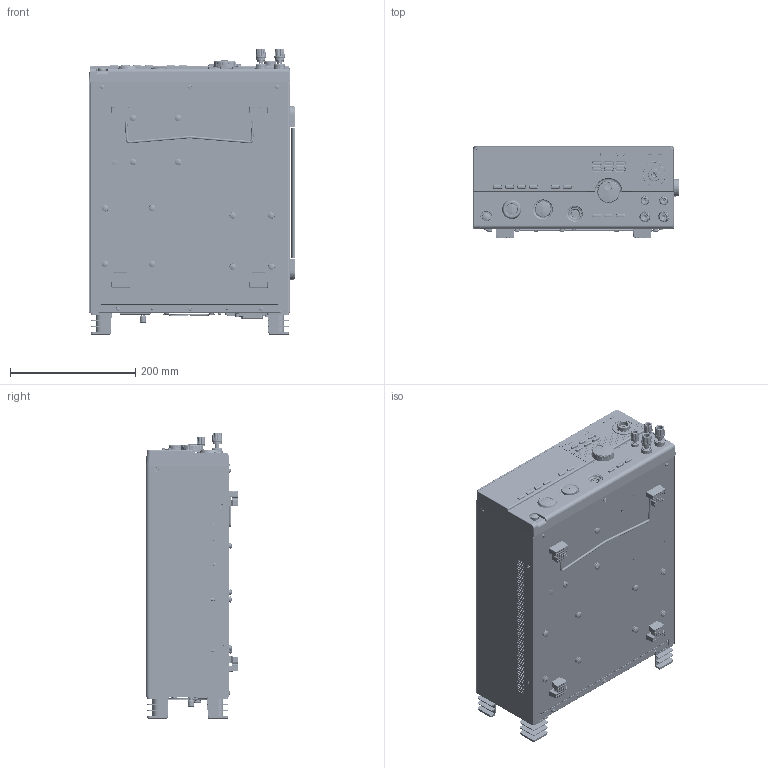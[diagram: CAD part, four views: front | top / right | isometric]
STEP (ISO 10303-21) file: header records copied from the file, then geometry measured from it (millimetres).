
FILE_DESCRIPTION((''),'2;1');
FILE_NAME('GPT9000_ASM_ASM','2019-09-04T13:23:06',('shane_wang'),(''),'CREO PARAMETRIC BY PTC INC, 2019080','CREO PARAMETRIC BY PTC INC, 2019080','');
FILE_SCHEMA(('CONFIG_CONTROL_DESIGN'));
Products named in the file (136): GPT9000_FRONT_ASM_SKEL; 63FP-SG100801; INSERT-CU-9000; 63FP-SG100801_ASM; LCD_VG240641; GFP-230XXX-3XX0X-20; GPT9000_MODEL_NP-A; 63TS-OG10010; 51PI-625NP3A; 4IN1_HVOUT_SCREW; NUT-M6; 4IN1_HVOUT_PNP-S_ASM; KEYSWITCH; REMOTE_SOCKET_YE0506; 40WA-S2BXHA01; GFP-230XXX-3XX0X-12; CONNECTOR_2LINE; KEYSWITCH_PCB_ASM_ASM; 5004-130G010; ENCODE-SW-15; GFP-230XXX-3XX0X-26; GFP-230XXX-3XX0X-8; LED-RIGHT; GPT9000_BUTTON1_PCB_ASM_ASM; SO-M3-10; 62PT-900FP101_ASM_ASM; 5005-350G0101; 57RB-40G08101; TERMINAL_SHAFT_S; TERMINAL_HEAD_S; TERMINAL_CLIP1_S; TERMINAL_CLIP2_S; NUT_M4; POLETERMINAL_B_S_ASM; POLETERMINAL_R_S_ASM; TERMINAL_SHAFT; TERMINAL_HEAD; TERMINAL_CLIP1; TERMINAL_CLIP2; POLETERMINAL_B_ASM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
Assembly tree (278 placements, depth 5):
  GPT9000_ASM_ASM
    GPT9000_FRONT_ASM_ASM
      GPT9000_FRONT_ASM_SKEL
      GPT9000_F_ASM-A_ASM
        63FP-SG100801_ASM
          63FP-SG100801
          INSERT-CU-9000  x7
        LCD_VG240641
        GFP-230XXX-3XX0X-20
        GPT9000_MODEL_NP-A
        4IN1_HVOUT_PNP-S_ASM
          63TS-OG10010
          51PI-625NP3A
          4IN1_HVOUT_SCREW
          NUT-M6  x2
        KEYSWITCH_PCB_ASM_ASM
          KEYSWITCH  x2
          REMOTE_SOCKET_YE0506
          40WA-S2BXHA01
          GFP-230XXX-3XX0X-12
          CONNECTOR_2LINE
        5004-130G010
        GPT9000_BUTTON1_PCB_ASM_ASM
          ENCODE-SW-15
          GFP-230XXX-3XX0X-26
          GFP-230XXX-3XX0X-12
          GFP-230XXX-3XX0X-8
          GFP-230XXX-3XX0X-20
          LED-RIGHT  x7
        62PT-900FP101_ASM_ASM
          SO-M3-10  x4
        5005-350G0101
        57RB-40G08101
        POLETERMINAL_B_S_ASM
          TERMINAL_SHAFT_S
          TERMINAL_HEAD_S
          TERMINAL_CLIP1_S
          TERMINAL_CLIP2_S
          NUT_M4  x2
        POLETERMINAL_R_S_ASM
          TERMINAL_SHAFT_S
          TERMINAL_HEAD_S
          TERMINAL_CLIP1_S
          TERMINAL_CLIP2_S
          NUT_M4  x2
        POLETERMINAL_B_ASM
          TERMINAL_SHAFT
          TERMINAL_HEAD
          TERMINAL_CLIP1
          TERMINAL_CLIP2
          NUT-M6  x2
        POLETERMINAL_R_ASM
          TERMINAL_SHAFT
          TERMINAL_HEAD
          TERMINAL_CLIP1
          TERMINAL_CLIP2
          NUT  x2
        GPT9000_BUTTON2_PCB-ASM_ASM
          GPT9000_BUTTON2_PCB
          57RB-40G08201
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Bounding box: 329.7 x 147.7 x 458.7 mm (x, y, z)
Volume: 1033678.1 mm3; surface area: 1335011.2 mm2
Topology: 259 solids, 259 shells, 19654 faces, 49942 edges, 31691 vertices
Faces by surface type: plane 11288, cylinder 5552, cone 1314, bspline 786, torus 483, sphere 213, extrusion 17, revolution 1
Entity records: 396150 total; most frequent: CARTESIAN_POINT 129323, ORIENTED_EDGE 55172, DIRECTION 54323, EDGE_CURVE 27586, AXIS2_PLACEMENT_3D 18603, VERTEX_POINT 17559, VECTOR 17116, LINE 17099
